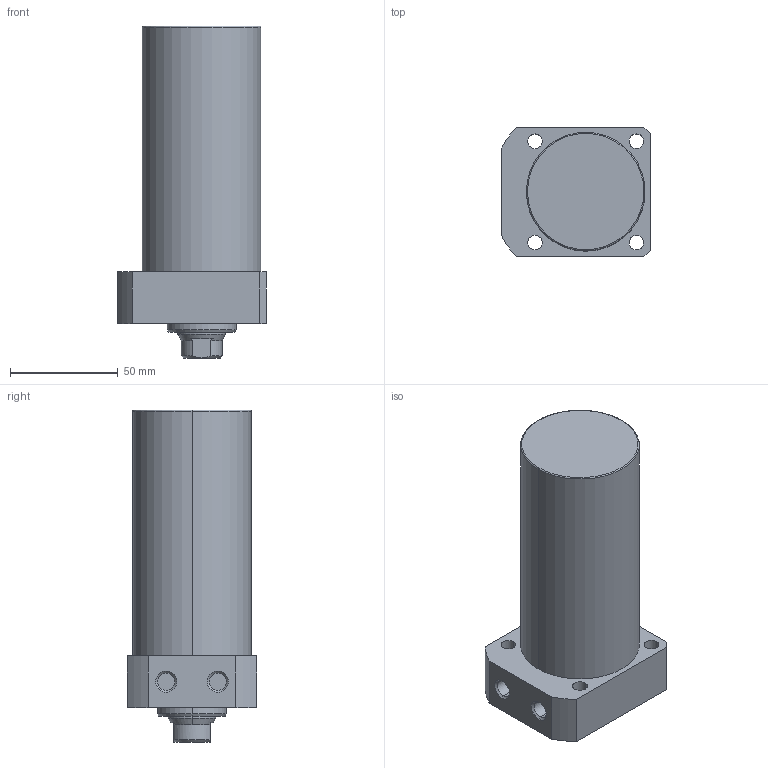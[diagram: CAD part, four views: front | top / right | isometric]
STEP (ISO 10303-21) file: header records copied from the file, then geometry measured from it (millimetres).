
FILE_DESCRIPTION (( 'STEP AP203' ), '1' );
FILE_NAME ('CLLR055-CA-085.STEP', '2017-05-16T03:39:27', ( '' ), ( '' ), 'SwSTEP 2.0', 'SolidWorks 2015', '' );
FILE_SCHEMA (( 'CONFIG_CONTROL_DESIGN' ));
Length unit declared in the file: millimetre
Products named in the file (1): CLLR055-CA-085
Bounding box: 69 x 60 x 154 mm (x, y, z)
Volume: 368472 mm3; surface area: 37984.8 mm2
Topology: 1 solids, 1 shells, 65 faces, 150 edges, 93 vertices
Faces by surface type: cylinder 29, plane 19, cone 15, torus 2
Entity records: 1959 total; most frequent: DIRECTION 348, CARTESIAN_POINT 347, ORIENTED_EDGE 296, EDGE_CURVE 148, AXIS2_PLACEMENT_3D 142, VERTEX_POINT 93, EDGE_LOOP 81, CIRCLE 76
